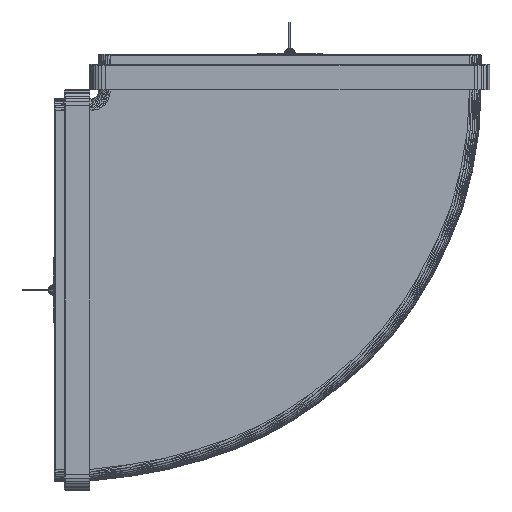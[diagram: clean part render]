
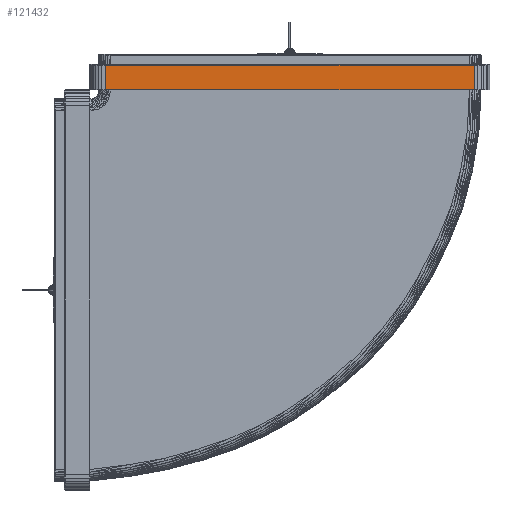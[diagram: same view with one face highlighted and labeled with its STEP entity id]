
A CAD part, front view. The second image highlights one B-rep face of the part: STEP entity #121432.
In plain terms, the highlighted planar face has unit normal (0, -1, 0).
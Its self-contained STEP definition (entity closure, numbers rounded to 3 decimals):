
#109826 = VERTEX_POINT('',#109827);
#109827 = CARTESIAN_POINT('',(254.352,0.,238.858));
#114080 = VERTEX_POINT('',#114081);
#114081 = CARTESIAN_POINT('',(46.862,0.,238.858));
#121390 = VERTEX_POINT('',#121391);
#121391 = CARTESIAN_POINT('',(46.862,0.,225.));
#121397 = EDGE_CURVE('',#121390,#114080,#121398,.T.);
#121398 = LINE('',#121399,#121400);
#121399 = CARTESIAN_POINT('',(46.862,0.,225.));
#121400 = VECTOR('',#121401,1.);
#121401 = DIRECTION('',(0.,0.,1.));
#121432 = ADVANCED_FACE('',(#121433),#121456,.T.);
#121433 = FACE_BOUND('',#121434,.T.);
#121434 = EDGE_LOOP('',(#121435,#121436,#121444,#121450));
#121435 = ORIENTED_EDGE('',*,*,#121397,.F.);
#121436 = ORIENTED_EDGE('',*,*,#121437,.T.);
#121437 = EDGE_CURVE('',#121390,#121438,#121440,.T.);
#121438 = VERTEX_POINT('',#121439);
#121439 = CARTESIAN_POINT('',(254.352,0.,225.));
#121440 = LINE('',#121441,#121442);
#121441 = CARTESIAN_POINT('',(46.862,0.,225.));
#121442 = VECTOR('',#121443,1.);
#121443 = DIRECTION('',(1.,0.,0.));
#121444 = ORIENTED_EDGE('',*,*,#121445,.T.);
#121445 = EDGE_CURVE('',#121438,#109826,#121446,.T.);
#121446 = LINE('',#121447,#121448);
#121447 = CARTESIAN_POINT('',(254.352,0.,225.));
#121448 = VECTOR('',#121449,1.);
#121449 = DIRECTION('',(0.,0.,1.));
#121450 = ORIENTED_EDGE('',*,*,#121451,.T.);
#121451 = EDGE_CURVE('',#109826,#114080,#121452,.T.);
#121452 = LINE('',#121453,#121454);
#121453 = CARTESIAN_POINT('',(254.352,0.,238.858));
#121454 = VECTOR('',#121455,1.);
#121455 = DIRECTION('',(-1.,0.,0.));
#121456 = PLANE('',#121457);
#121457 = AXIS2_PLACEMENT_3D('',#121458,#121459,#121460);
#121458 = CARTESIAN_POINT('',(150.607,0.,231.929));
#121459 = DIRECTION('',(-0.,-1.,-0.));
#121460 = DIRECTION('',(0.,0.,-1.));
